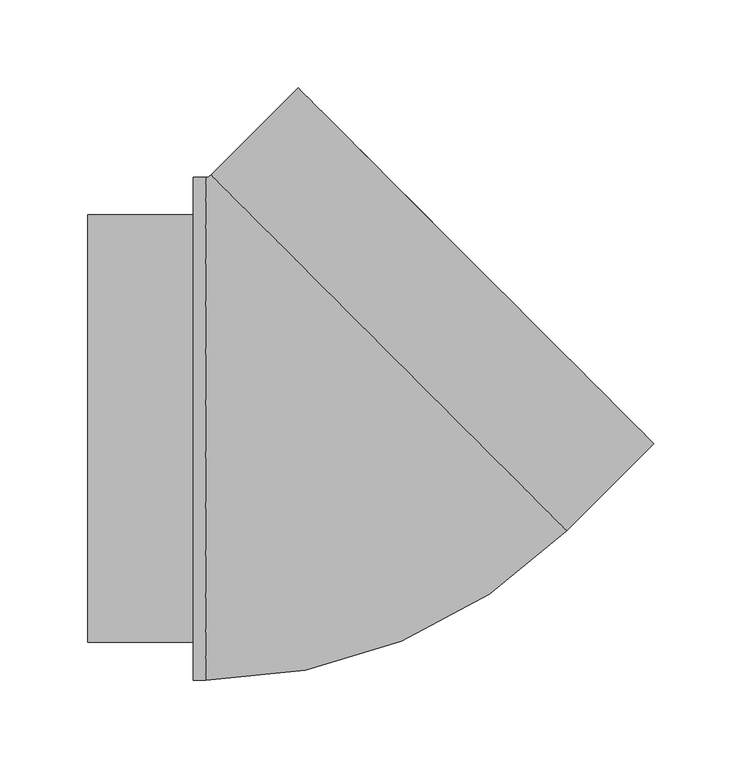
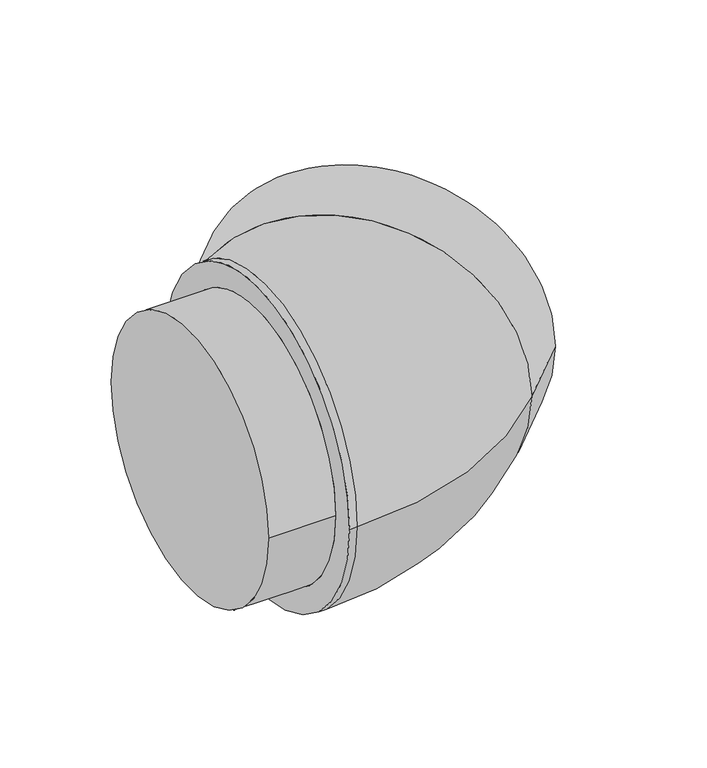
"""IFC4 building model written with IfcOpenShell, lengths in millimetres: duct fitting geometry, NLRS_57_DUF_UN_bend EPP+_MG : ø160 - ø200."""

from ifc_helpers import new_model, si_unit, point, frame, origin, place, context, project, spatial, polyline, circle_curve, ellipse_curve, trimmed, source, transform, mapped, element, save
from ifc_brep_helpers import plane_surface, cylinder_surface, revolved_surface, advanced_brep


def duct_fitting_18661c71(model_context):
    return source(origin(), model_context, "Body", "AdvancedBrep", [
        advanced_brep(
        [(-128.0, 121.5, 0.0), (-128.0, -121.5, 0.0), (-61.0, -143.0, 0.0), (-61.0, 143.0, 0.0), (-68.0, 143.0, 0.0), (-68.0, -143.0, 0.0), (144.2497834, -57.9827561, 0.0), (-57.9827561, 144.2497834, 0.0), (193.747258, -8.4852814, 0.0), (-8.4852814, 193.747258, 0.0), (178.5444622, 6.7175144, 0.0), (6.7175144, 178.5444622, 0.0), (136.1180554, -35.7088924, 0.0), (-35.7088924, 136.1180554, 0.0), (-68.0, 121.5, 0.0), (-68.0, -121.5, 0.0)],
        [
            (0, 1, circle_curve(frame((-128.0, 0.0, 0.0), z_axis=(-1.0, 0.0, 0.0), x_axis=(0.0, -1.0, 0.0)), 121.5)),
            (1, 0, circle_curve(frame((-128.0, 0.0, 0.0), z_axis=(-1.0, 0.0, 0.0), x_axis=(0.0, -1.0, 0.0)), 121.5)),
            (2, 3, circle_curve(frame((-61.0, 0.0, 0.0), z_axis=(-1.0, 0.0, 0.0), x_axis=(0.0, 1.0, 0.0)), 143.0)),
            (3, 4),
            (4, 5, circle_curve(frame((-68.0, 0.0, 0.0), z_axis=(1.0, 0.0, 0.0), x_axis=(0.0, 1.0, 0.0)), 143.0)),
            (5, 2),
            (3, 2, circle_curve(frame((-61.0, 0.0, 0.0), z_axis=(-1.0, 0.0, 0.0), x_axis=(0.0, 1.0, 0.0)), 143.0)),
            (5, 4, circle_curve(frame((-68.0, 0.0, 0.0), z_axis=(1.0, 0.0, 0.0), x_axis=(0.0, 1.0, 0.0)), 143.0)),
            (2, 6, circle_curve(frame((-61.0, 147.2670273, 0.0), z_axis=(0.0, 0.0, 1.0), x_axis=(0.0, -1.0, 0.0)), 290.2670273)),
            (6, 7, circle_curve(frame((43.1335137, 43.1335137, 0.0), z_axis=(-0.707106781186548, -0.707106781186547, 0.0), x_axis=(-0.707106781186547, 0.707106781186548, 0.0)), 143.0)),
            (7, 3, circle_curve(frame((-61.0, 147.2670273, 0.0), z_axis=(0.0, 0.0, -1.0), x_axis=(0.0, -1.0, 0.0)), 4.2670273)),
            (7, 6, circle_curve(frame((43.1335137, 43.1335137, 0.0), z_axis=(-0.7071067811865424, -0.7071067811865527, 0.0), x_axis=(-0.7071067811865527, 0.7071067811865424, 0.0)), 143.0)),
            (8, 9, circle_curve(frame((92.6309883, 92.6309883, 0.0), z_axis=(0.7071067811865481, 0.707106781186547, 0.0), x_axis=(-0.707106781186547, 0.7071067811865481, 0.0)), 143.0)),
            (9, 8, circle_curve(frame((92.6309883, 92.6309883, 0.0), z_axis=(0.7071067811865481, 0.707106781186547, 0.0), x_axis=(-0.707106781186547, 0.7071067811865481, 0.0)), 143.0)),
            (10, 11, circle_curve(frame((92.6309883, 92.6309883, 0.0), z_axis=(-0.7071067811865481, -0.7071067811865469, 0.0), x_axis=(-0.7071067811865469, 0.7071067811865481, 0.0)), 121.5)),
            (11, 10, circle_curve(frame((92.6309883, 92.6309883, 0.0), z_axis=(-0.7071067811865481, -0.7071067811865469, 0.0), x_axis=(-0.7071067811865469, 0.7071067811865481, 0.0)), 121.5)),
            (6, 8),
            (9, 7),
            (12, 13, circle_curve(frame((50.2045815, 50.2045815, 0.0), z_axis=(0.7071067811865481, 0.7071067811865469, 0.0), x_axis=(-0.7071067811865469, 0.7071067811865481, 0.0)), 121.5)),
            (13, 12, circle_curve(frame((50.2045815, 50.2045815, 0.0), z_axis=(0.7071067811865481, 0.7071067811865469, 0.0), x_axis=(-0.7071067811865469, 0.7071067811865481, 0.0)), 121.5)),
            (13, 11),
            (10, 12),
            (14, 15, circle_curve(frame((-68.0, 0.0, 0.0), z_axis=(1.0, 0.0, 0.0), x_axis=(0.0, -1.0, 0.0)), 121.5)),
            (15, 14, circle_curve(frame((-68.0, 0.0, 0.0), z_axis=(1.0, 0.0, 0.0), x_axis=(0.0, -1.0, 0.0)), 121.5)),
            (15, 1),
            (0, 14),
        ],
        [
            plane_surface(frame((-128.0, 0.0, 0.0), z_axis=(-1.0, 0.0, 0.0), x_axis=(0.0, 0.0, 1.0))),
            cylinder_surface(frame((-128.0, 0.0, 0.0), z_axis=(-1.0, 0.0, 0.0), x_axis=(0.0, 1.0, 0.0)), 143.0),
            revolved_surface(trimmed(ellipse_curve(frame((-61.0, 0.0, 0.0), z_axis=(-1.0, 0.0, 0.0), x_axis=(0.0, 1.0, 0.0)), 143.0, 143.0), [point((-61.0, -143.0, 0.0))], [point((-61.0, 143.0, 0.0))], True, "CARTESIAN"), (-61.0, 147.2670273, 0.0), (0.0, 0.0, 1.0)),
            revolved_surface(trimmed(ellipse_curve(frame((-61.0, 0.0, 0.0), z_axis=(-1.0, 0.0, 0.0), x_axis=(0.0, 1.0, 0.0)), 143.0, 143.0), [point((-61.0, 143.0, 0.0))], [point((-61.0, -143.0, 0.0))], True, "CARTESIAN"), (-61.0, 147.2670273, 0.0), (0.0, 0.0, 1.0)),
            plane_surface(frame((92.6309883, 92.6309883, 0.0), z_axis=(0.7071067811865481, 0.707106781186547, 0.0), x_axis=(0.0, 0.0, 1.0))),
            cylinder_surface(frame((43.1335137, 43.1335137, 0.0), z_axis=(-0.7071067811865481, -0.707106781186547, 0.0), x_axis=(-0.707106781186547, 0.7071067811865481, 0.0)), 143.0),
            plane_surface(frame((50.2045815, 50.2045815, 0.0), z_axis=(0.7071067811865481, 0.7071067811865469, 0.0), x_axis=(0.0, 0.0, 1.0))),
            revolved_surface(polyline([(-35.708892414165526, 136.11805541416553, 0.0), (6.717514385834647, 178.54446221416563, 0.0)]), (50.2045815, 50.2045815, 0.0), (-0.7071067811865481, -0.7071067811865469, 0.0)),
            plane_surface(frame((-68.0, 0.0, 0.0), z_axis=(-1.0, 0.0, 0.0), x_axis=(0.0, 0.0, 1.0))),
            cylinder_surface(frame((-68.0, 0.0, 0.0), z_axis=(-1.0, 0.0, 0.0), x_axis=(0.0, -1.0, 0.0)), 121.5),
        ],
        [
            (0, [[1, 2]]),
            (1, [[3, 4, 5, 6]]),
            (1, [[7, -6, 8, -4]]),
            (2, [[-3, 9, 10, 11]]),
            (3, [[-7, -11, 12, -9]]),
            (4, [[13, 14], [15, 16]]),
            (5, [[-10, 17, -14, 18]]),
            (5, [[-12, -18, -13, -17]]),
            (6, [[19, 20]]),
            (7, [[-20, 21, -15, 22]]),
            (7, [[-19, -22, -16, -21]]),
            (8, [[-5, -8], [23, 24]]),
            (9, [[-24, 25, -1, 26]]),
            (9, [[-23, -26, -2, -25]]),
        ],
    ),
    ])


if __name__ == "__main__":
    model = new_model("IFC4")
    model_context = context("Model", 3, world=origin())
    ifc_project = project(units=[si_unit("LENGTHUNIT", "METRE", prefix="MILLI")], contexts=[model_context])
    site = spatial("IfcSite", under=ifc_project)
    building = spatial("IfcBuilding", under=site)
    placement = place(None, origin())
    duct_fitting_shape = duct_fitting_18661c71(model_context)
    element("IfcDuctFitting", 1, ObjectType="NLRS_57_DUF_UN_bend EPP+_MG : ø160 - ø200", at=placement, inside=building, context=model_context, shape_type="MappedRepresentation", body=[
        mapped(duct_fitting_shape, transform((0.0, 0.0, 0.0), x_axis=(1.0, 0.0, 0.0), y_axis=(0.0, 1.0, 0.0), z_axis=(0.0, 0.0, 1.0))),
    ])
    save(model, "model.ifc")
